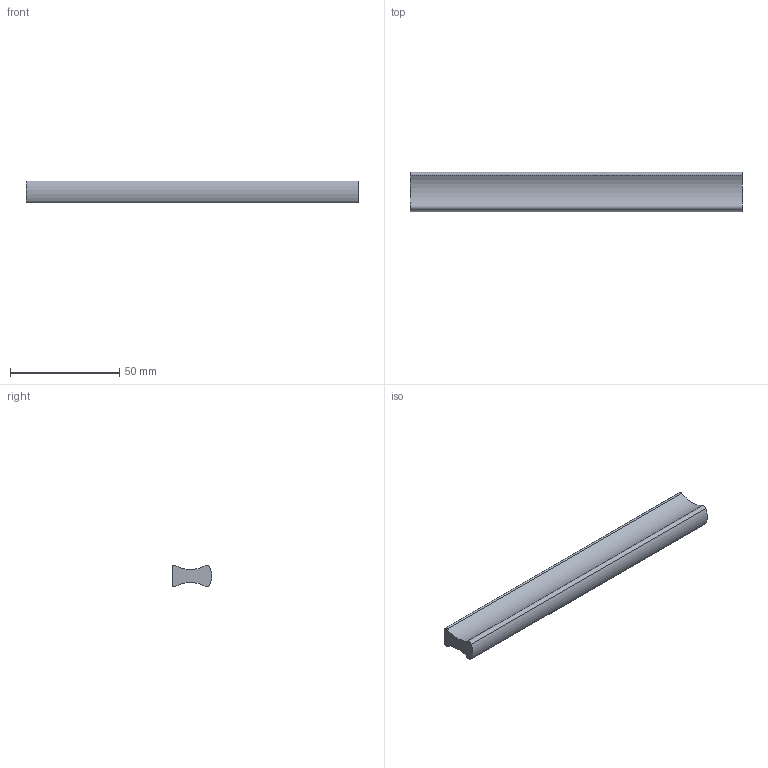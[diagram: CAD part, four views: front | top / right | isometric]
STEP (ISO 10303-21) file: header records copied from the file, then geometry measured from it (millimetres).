
FILE_DESCRIPTION( ( 'STEP AP214' ), '1' );
FILE_NAME( 'C:/Users/kulkarni/Desktop/Apurva/2015/Prodecor_2016/Cadfiles/kervo/9190437.stp', ' ', ( ' ' ), ( ' ' ), 'PSStep 15.0.47', 'PARTsolutions', ' ' );
FILE_SCHEMA( ( 'AUTOMOTIVE_DESIGN { 1 0 10303 214 1 1 1 1 }' ) );
Length unit declared in the file: millimetre
Products named in the file (1): _
Bounding box: 152 x 17.96 x 10 mm (x, y, z)
Volume: 20394.2 mm3; surface area: 8881.8 mm2
Topology: 1 solids, 1 shells, 18 faces, 36 edges, 24 vertices
Faces by surface type: cylinder 11, plane 7
Full cylindrical faces by diameter (mm): 4 x4
Entity records: 622 total; most frequent: DIRECTION 92, CARTESIAN_POINT 75, ORIENTED_EDGE 64, AXIS2_PLACEMENT_3D 41, EDGE_CURVE 32, EDGE_LOOP 26, VERTEX_POINT 24, FACE_OUTER_BOUND 22
